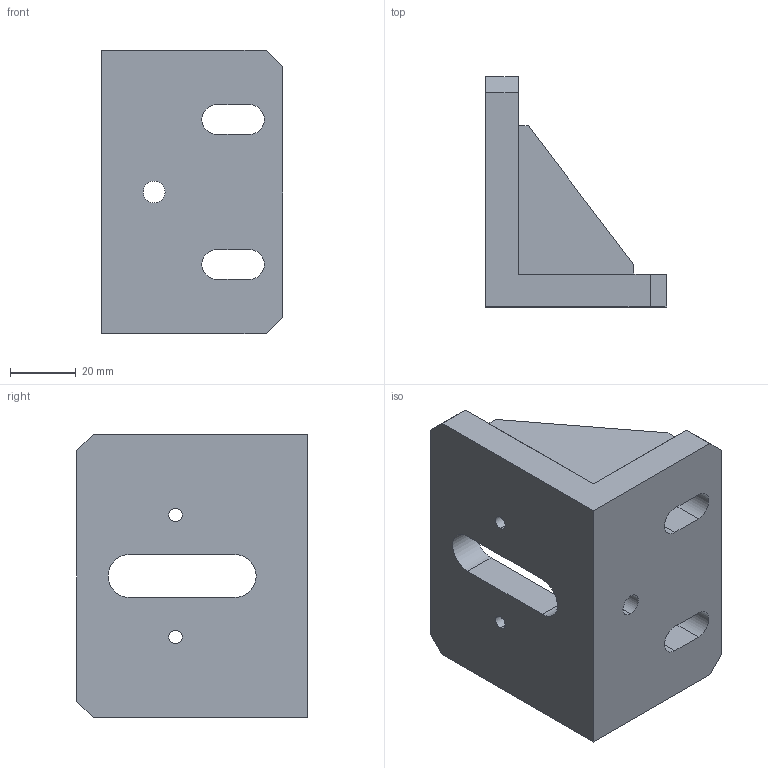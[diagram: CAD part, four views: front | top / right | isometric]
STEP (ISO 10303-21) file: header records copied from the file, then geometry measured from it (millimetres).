
FILE_DESCRIPTION (( 'STEP AP214' ), '1' );
FILE_NAME ('AGZ061.04.01_V1惰轮固定座.STEP', '2021-09-23T06:50:30', ( '微软中国' ), ( 'Microsoft' ), 'SwSTEP 2.0', 'SolidWorks 2017', '' );
FILE_SCHEMA (( 'AUTOMOTIVE_DESIGN' ));
Length unit declared in the file: millimetre
Products named in the file (1): AGZ061.04.01_V1嗉謫嘐隅釱
Bounding box: 55 x 70 x 86 mm (x, y, z)
Volume: 100060.9 mm3; surface area: 29507.9 mm2
Topology: 3 solids, 3 shells, 44 faces, 114 edges, 76 vertices
Faces by surface type: plane 32, cylinder 12
Entity records: 1484 total; most frequent: CARTESIAN_POINT 235, DIRECTION 228, ORIENTED_EDGE 228, EDGE_CURVE 114, LINE 90, VECTOR 90, VERTEX_POINT 76, AXIS2_PLACEMENT_3D 69
